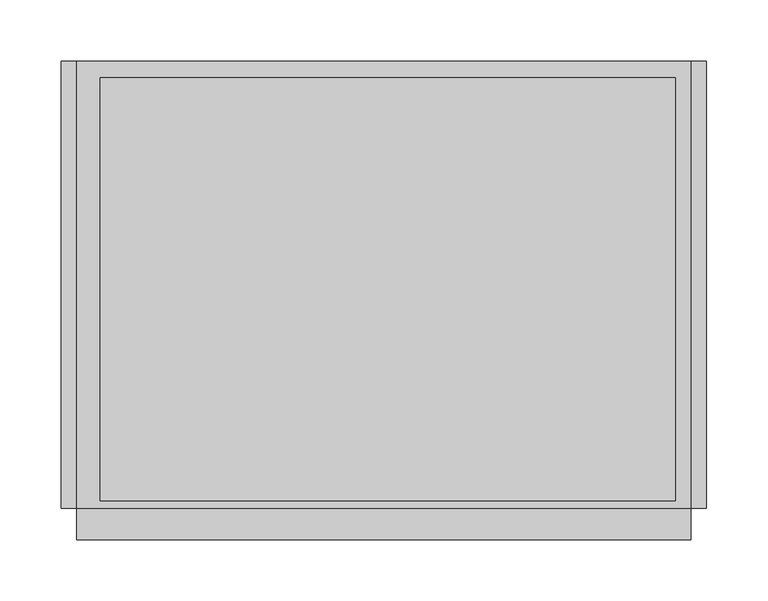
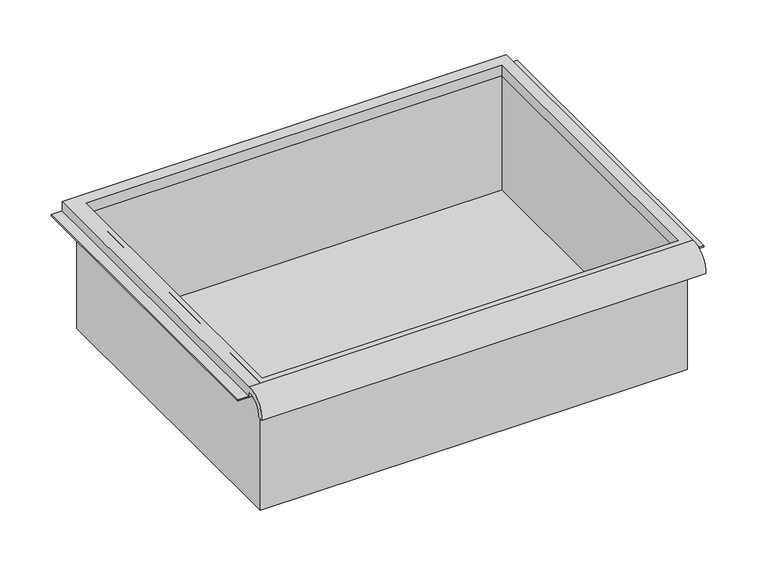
"""IFC4 building model written with IfcOpenShell, lengths in millimetres: furniture geometry."""

from ifc_helpers import new_model, si_unit, frame, origin, place, context, project, spatial, polyline, circle_curve, faceted_brep, source, transform, mapped, element, save
from ifc_brep_helpers import plane_surface, cylinder_surface, revolved_surface, advanced_brep


def furniture_c6bb3dba(model_context):
    return source(origin(), model_context, "Body", "SolidModel", [
        advanced_brep(
        [(263.7474999, -195.297482, 556.4199118), (263.7474999, -188.9125, 556.4199118), (263.7474999, -169.8625, 574.681385), (263.7474999, -169.8625, 568.3313846), (263.7474999, 195.2625, 568.3313846), (263.7474999, 195.2625, 581.031385), (263.7474999, -169.8625, 581.031385), (-237.9025001, -195.297482, 556.4199118), (-237.9025001, -169.8625, 581.031385), (-237.9025001, 195.2625, 581.031385), (-237.9025001, 195.2625, 568.3313846), (-237.9025001, -169.8625, 568.3313846), (-237.9025001, -169.8625, 574.681385), (-237.9025001, -188.9125, 556.4199118), (251.0474878, 181.9275, 568.3313846), (-218.8095642, 181.9275, 568.3313846), (-218.8095642, -163.5125, 568.3313846), (251.0474878, -163.5125, 568.3313846), (-218.8095642, 181.9275, 581.031385), (251.0474878, 181.9275, 581.031385), (251.0474878, -163.5125, 581.031385), (-218.8095642, -163.5125, 581.031385)],
        [
            (0, 1),
            (1, 2, circle_curve(frame((263.7474999, -172.3404634, 558.1993222), z_axis=(-1.0, 0.0, 0.0), x_axis=(0.0, 1.0, 0.0)), 16.6672942)),
            (2, 3),
            (3, 4),
            (4, 5),
            (5, 6),
            (6, 0, circle_curve(frame((263.7474999, -172.4601678, 558.2672122), z_axis=(1.0, 0.0, 0.0), x_axis=(0.0, 1.0, 0.0)), 22.9119061)),
            (7, 8, circle_curve(frame((-237.9025001, -172.4601678, 558.2672122), z_axis=(-1.0, 0.0, 0.0), x_axis=(0.0, 1.0, 0.0)), 22.9119061)),
            (8, 9),
            (9, 10),
            (10, 11),
            (11, 12),
            (12, 13, circle_curve(frame((-237.9025001, -172.3404634, 558.1993222), z_axis=(1.0, 0.0, 0.0), x_axis=(0.0, 1.0, 0.0)), 16.6672942)),
            (13, 7),
            (0, 7),
            (13, 1),
            (12, 2),
            (11, 3),
            (10, 4),
            (14, 15),
            (15, 16),
            (16, 17),
            (17, 14),
            (9, 5),
            (8, 6),
            (18, 19),
            (19, 20),
            (20, 21),
            (21, 18),
            (14, 19),
            (18, 15),
            (21, 16),
            (20, 17),
        ],
        [
            plane_surface(frame((263.7474999, -195.297482, 556.4199118), z_axis=(1.0, 0.0, 0.0), x_axis=(0.0, 1.0, 0.0))),
            plane_surface(frame((-237.9025001, -195.297482, 556.4199118), z_axis=(-1.0, 0.0, 0.0), x_axis=(0.0, -1.0, 0.0))),
            plane_surface(frame((263.7474999, -195.297482, 556.4199118), z_axis=(0.0, 0.0, -1.0), x_axis=(-1.0, 0.0, 0.0))),
            revolved_surface(polyline([(-237.9025001, -155.67316920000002, 558.1993222), (263.7474999, -155.67316920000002, 558.1993222)]), (-237.9025001, -172.3404634, 558.1993222), (-1.0, 0.0, 0.0)),
            plane_surface(frame((263.7474999, -169.8625, 574.681385), z_axis=(0.0, -1.0, 0.0), x_axis=(-1.0, 0.0, 0.0))),
            plane_surface(frame((263.7474999, -169.8625, 568.3313846), z_axis=(0.0, 0.0, -1.0), x_axis=(-1.0, 0.0, 0.0))),
            plane_surface(frame((263.7474999, 195.2625, 568.3313846), z_axis=(0.0, 1.0, 0.0), x_axis=(-1.0, 0.0, 0.0))),
            plane_surface(frame((263.7474999, 195.2625, 581.031385), z_axis=(0.0, 0.0, 1.0), x_axis=(-1.0, 0.0, 0.0))),
            cylinder_surface(frame((-237.9025001, -172.4601678, 558.2672122), z_axis=(1.0, 0.0, 0.0), x_axis=(0.0, 1.0, 0.0)), 22.9119061),
            plane_surface(frame((251.0474878, 181.9275, 581.031385), z_axis=(0.0, -1.0, 0.0), x_axis=(0.0, 0.0, -1.0))),
            plane_surface(frame((-218.8095642, 181.9275, 581.031385), z_axis=(1.0, 0.0, 0.0), x_axis=(0.0, 0.0, -1.0))),
            plane_surface(frame((-218.8095642, -163.5125, 581.031385), z_axis=(0.0, 1.0, 0.0), x_axis=(0.0, 0.0, -1.0))),
            plane_surface(frame((251.0474878, -163.5125, 581.031385), z_axis=(-1.0, 0.0, 0.0), x_axis=(0.0, 0.0, -1.0))),
        ],
        [
            (0, [[1, 2, 3, 4, 5, 6, 7]]),
            (1, [[8, 9, 10, 11, 12, 13, 14]]),
            (2, [[-1, 15, -14, 16]]),
            (3, [[-2, -16, -13, 17]]),
            (4, [[-3, -17, -12, 18]]),
            (5, [[-4, -18, -11, 19], [20, 21, 22, 23]]),
            (6, [[-5, -19, -10, 24]]),
            (7, [[-6, -24, -9, 25], [26, 27, 28, 29]]),
            (8, [[-7, -25, -8, -15]]),
            (9, [[30, -26, 31, -20]]),
            (10, [[-31, -29, 32, -21]]),
            (11, [[-32, -28, 33, -22]]),
            (12, [[-30, -23, -33, -27]]),
        ],
    ),
        faceted_brep([(-225.2025001, -169.8625, 428.631385), (257.3974878, -169.8625, 428.631385), (257.3974878, -169.8625, 581.031385), (-225.2025001, -169.8625, 581.031385), (-225.2025001, 188.9125, 428.631385), (-225.2025001, 188.9125, 581.031385), (257.3974878, 188.9125, 581.031385), (257.3974878, 188.9125, 428.631385), (-218.8095642, 181.9275, 581.031385), (251.0474878, 181.9275, 581.031385), (251.0474878, -163.5125, 581.031385), (-218.8095642, -163.5125, 581.031385), (251.0474878, 181.9275, 431.806385), (-218.8095642, 181.9275, 431.806385), (-218.8095642, -163.5125, 431.806385), (251.0474878, -163.5125, 431.806385)], [[[0, 1, 2, 3]], [[4, 5, 6, 7]], [[1, 0, 4, 7]], [[2, 1, 7, 6]], [[3, 2, 6, 5], [8, 9, 10, 11]], [[0, 3, 5, 4]], [[12, 13, 14, 15]], [[13, 12, 9, 8]], [[14, 13, 8, 11]], [[15, 14, 11, 10]], [[12, 15, 10, 9]]]),
        faceted_brep([(-250.6025001, 195.2625, 568.3313846), (-250.6025001, 195.2625, 569.9188846), (-231.5525001, 195.2625, 569.9188846), (-231.5525001, 195.2625, 568.3313846), (-250.6025001, -169.8625, 568.3313846), (-231.5525001, -169.8625, 568.3313846), (-231.5525001, -169.8625, 569.9188846), (-250.6025001, -169.8625, 569.9188846)], [[[0, 1, 2, 3]], [[4, 5, 6, 7]], [[1, 0, 4, 7]], [[2, 1, 7, 6]], [[3, 2, 6, 5]], [[0, 3, 5, 4]]]),
        faceted_brep([(276.4474999, 195.2625, 568.3313846), (263.7474999, 195.2625, 568.3313846), (263.7474999, 195.2625, 569.9188846), (276.4474999, 195.2625, 569.9188846), (276.4474999, -169.8625, 568.3313846), (276.4474999, -169.8625, 569.9188846), (263.7474999, -169.8625, 569.9188846), (263.7474999, -169.8625, 568.3313846)], [[[0, 1, 2, 3]], [[4, 5, 6, 7]], [[1, 0, 4, 7]], [[2, 1, 7, 6]], [[3, 2, 6, 5]], [[0, 3, 5, 4]]]),
    ])


if __name__ == "__main__":
    model = new_model("IFC4")
    model_context = context("Model", 3, world=origin())
    ifc_project = project(units=[si_unit("LENGTHUNIT", "METRE", prefix="MILLI")], contexts=[model_context])
    site = spatial("IfcSite", under=ifc_project)
    building = spatial("IfcBuilding", under=site)
    placement = place(None, origin())
    furniture_shape = furniture_c6bb3dba(model_context)
    element("IfcFurniture", 1, ObjectType="HermanMiller_Carts_CT501_Drawer : 6\"H x 15\"D x 20\"W", at=placement, inside=building, context=model_context, shape_type="MappedRepresentation", body=[
        mapped(furniture_shape, transform((0.0, 0.0, 0.0), x_axis=(1.0, 0.0, 0.0), y_axis=(0.0, 1.0, 0.0), z_axis=(0.0, 0.0, 1.0))),
    ])
    save(model, "model.ifc")
